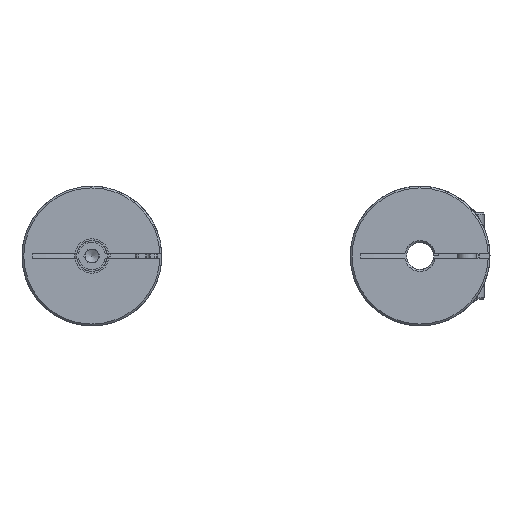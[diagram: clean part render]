
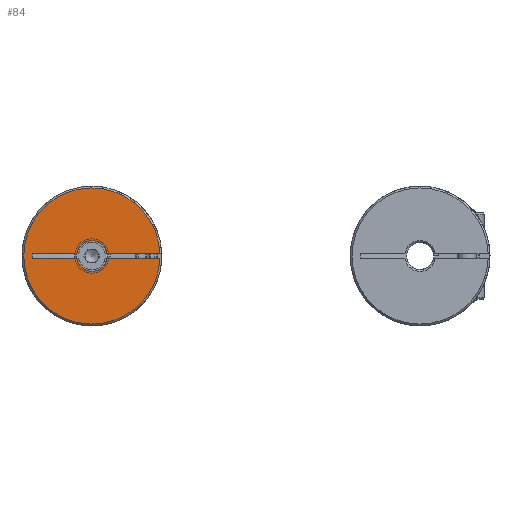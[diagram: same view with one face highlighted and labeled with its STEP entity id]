
A CAD part, left-side view. The second image highlights one B-rep face of the part: STEP entity #84.
In plain terms, the highlighted planar face has unit normal (-1, 0, 0).
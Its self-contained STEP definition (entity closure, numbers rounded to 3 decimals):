
#84 = ADVANCED_FACE( 'NONE', ( #170 ), #171, .F. );
#170 = FACE_OUTER_BOUND( '', #275, .T. );
#171 = PLANE( '', #276 );
#275 = EDGE_LOOP( '', ( #505, #506, #507, #508, #509, #510, #511, #512 ) );
#276 = AXIS2_PLACEMENT_3D( '', #513, #514, #515 );
#505 = ORIENTED_EDGE( '', *, *, #980, .T. );
#506 = ORIENTED_EDGE( '', *, *, #981, .T. );
#507 = ORIENTED_EDGE( '', *, *, #982, .T. );
#508 = ORIENTED_EDGE( '', *, *, #983, .T. );
#509 = ORIENTED_EDGE( '', *, *, #984, .F. );
#510 = ORIENTED_EDGE( '', *, *, #985, .T. );
#511 = ORIENTED_EDGE( '', *, *, #986, .F. );
#512 = ORIENTED_EDGE( '', *, *, #947, .T. );
#513 = CARTESIAN_POINT( '', ( 0., 1.5, 0. ) );
#514 = DIRECTION( '', ( 1., 0., 0. ) );
#515 = DIRECTION( '', ( 0., 1., 0. ) );
#947 = EDGE_CURVE( 'NONE', #1313, #1317, #1319, .T. );
#980 = EDGE_CURVE( 'NONE', #1317, #1378, #1379, .T. );
#981 = EDGE_CURVE( 'NONE', #1378, #1380, #1381, .T. );
#982 = EDGE_CURVE( 'NONE', #1380, #1382, #1383, .T. );
#983 = EDGE_CURVE( 'NONE', #1382, #1384, #1385, .F. );
#984 = EDGE_CURVE( 'NONE', #1386, #1384, #1387, .F. );
#985 = EDGE_CURVE( 'NONE', #1386, #1388, #1389, .T. );
#986 = EDGE_CURVE( 'NONE', #1313, #1388, #1390, .F. );
#1313 = VERTEX_POINT( 'NONE', #1968 );
#1317 = VERTEX_POINT( 'NONE', #1975 );
#1319 = LINE( '', #1977, #1978 );
#1378 = VERTEX_POINT( 'NONE', #2142 );
#1379 = LINE( '', #2143, #2144 );
#1380 = VERTEX_POINT( 'NONE', #2145 );
#1381 = CIRCLE( '', #2146, 1.7 );
#1382 = VERTEX_POINT( 'NONE', #2147 );
#1383 = LINE( '', #2148, #2149 );
#1384 = VERTEX_POINT( 'NONE', #2150 );
#1385 = CIRCLE( '', #2151, 7.55 );
#1386 = VERTEX_POINT( 'NONE', #2152 );
#1387 = LINE( '', #2153, #2154 );
#1388 = VERTEX_POINT( 'NONE', #2155 );
#1389 = CIRCLE( '', #2156, 1.7 );
#1390 = LINE( '', #2157, #2158 );
#1968 = CARTESIAN_POINT( '', ( 0., 6.624, -0.25 ) );
#1975 = CARTESIAN_POINT( '', ( 0., 6.624, 0.25 ) );
#1977 = CARTESIAN_POINT( '', ( 0., 6.624, -0.25 ) );
#1978 = VECTOR( '', #2341, 1000. );
#2142 = CARTESIAN_POINT( '', ( 0., 1.682, 0.25 ) );
#2143 = CARTESIAN_POINT( '', ( 0., 1.5, 0.25 ) );
#2144 = VECTOR( '', #2386, 1000. );
#2145 = CARTESIAN_POINT( '', ( 0., -1.682, 0.25 ) );
#2146 = AXIS2_PLACEMENT_3D( '', #2387, #2388, #2389 );
#2147 = CARTESIAN_POINT( '', ( 0., -7.546, 0.25 ) );
#2148 = CARTESIAN_POINT( '', ( 0., 1.5, 0.25 ) );
#2149 = VECTOR( '', #2390, 1000. );
#2150 = CARTESIAN_POINT( '', ( 0., -7.546, -0.25 ) );
#2151 = AXIS2_PLACEMENT_3D( '', #2391, #2392, #2393 );
#2152 = CARTESIAN_POINT( '', ( 0., -1.682, -0.25 ) );
#2153 = CARTESIAN_POINT( '', ( 0., -4.5, -0.25 ) );
#2154 = VECTOR( '', #2394, 1000. );
#2155 = CARTESIAN_POINT( '', ( 0., 1.682, -0.25 ) );
#2156 = AXIS2_PLACEMENT_3D( '', #2395, #2396, #2397 );
#2157 = CARTESIAN_POINT( '', ( 0., -4.5, -0.25 ) );
#2158 = VECTOR( '', #2398, 1000. );
#2341 = DIRECTION( '', ( 0., 0., 1. ) );
#2386 = DIRECTION( '', ( 0., -1., 0. ) );
#2387 = CARTESIAN_POINT( '', ( 0., 0., 0. ) );
#2388 = DIRECTION( '', ( 1., 0., 0. ) );
#2389 = DIRECTION( '', ( 0., 0., -1. ) );
#2390 = DIRECTION( '', ( 0., -1., 0. ) );
#2391 = CARTESIAN_POINT( '', ( 0., 0., 0. ) );
#2392 = DIRECTION( '', ( 1., 0., 0. ) );
#2393 = DIRECTION( '', ( 0., 0., -1. ) );
#2394 = DIRECTION( '', ( 0., 1., 0. ) );
#2395 = CARTESIAN_POINT( '', ( 0., 0., 0. ) );
#2396 = DIRECTION( '', ( 1., 0., 0. ) );
#2397 = DIRECTION( '', ( 0., 0., -1. ) );
#2398 = DIRECTION( '', ( 0., 1., 0. ) );
